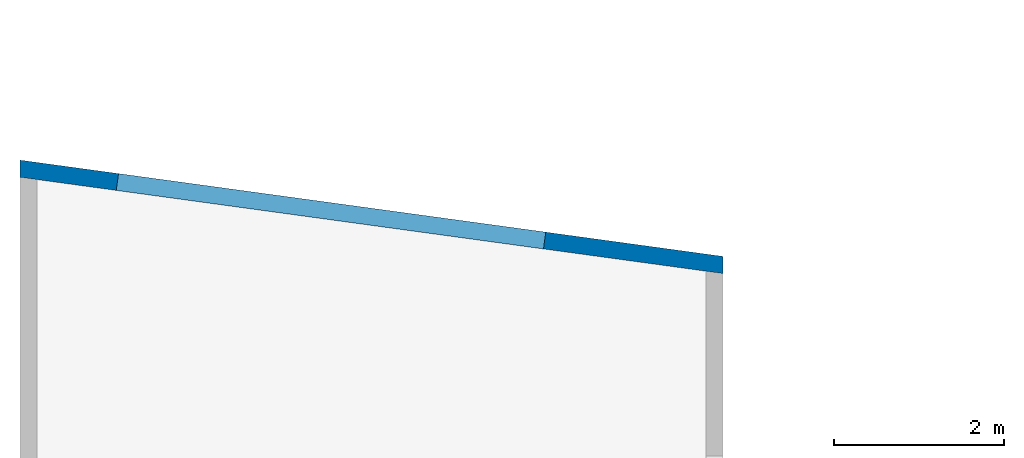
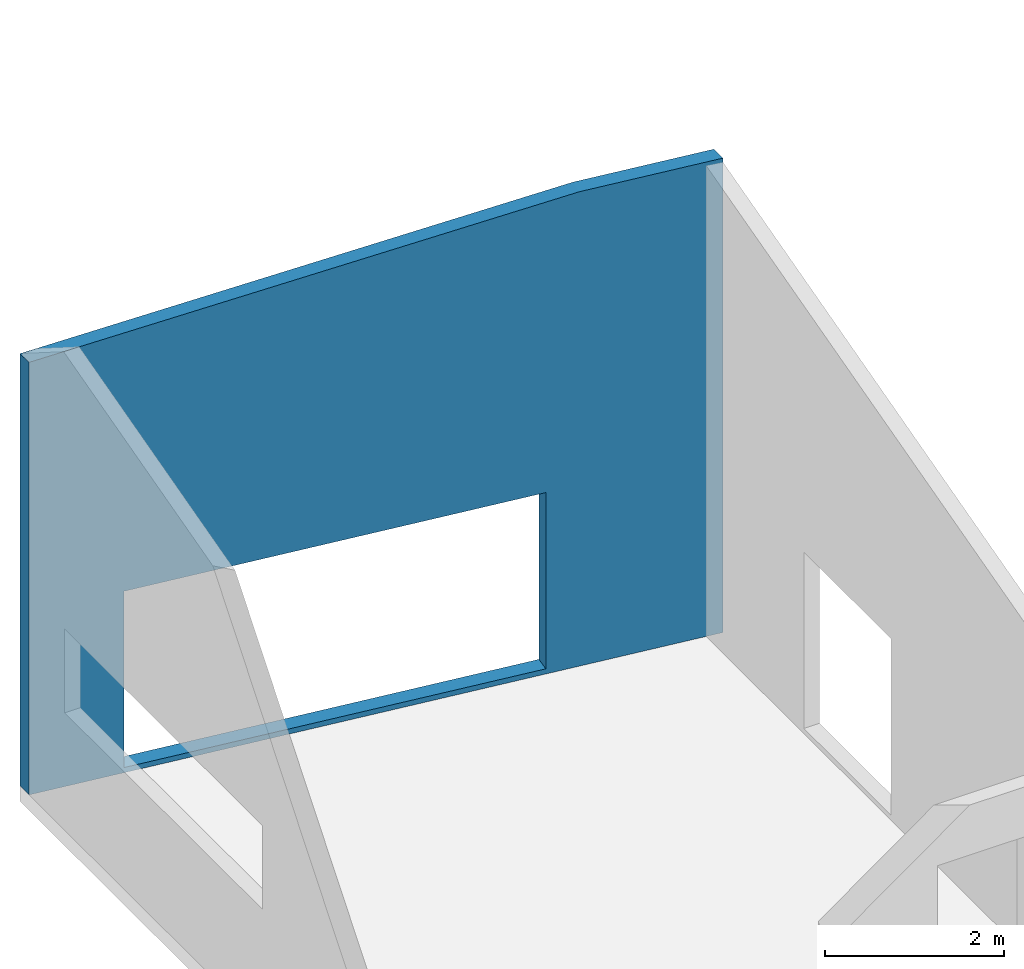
# One storey, part 2 of 2: 1 wall.
"""IFC2X3 building model written with IfcOpenShell, lengths in metres."""

from ifc_helpers import new_model, entity, si_unit, converted_unit, derived_unit, direction, frame, origin, place, context, subcontext, project, spatial, faceted_brep, material, type_object, element, save


model = new_model("IFC2X3")

# Units and contexts
model_context = context("Model", 3, precision=1e-05, world=origin(), true_north=direction((6.12303176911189e-17, 1.0)))
body_context = subcontext(model_context, "Body", "Model", "MODEL_VIEW")
ifc_project = project(units=[si_unit("LENGTHUNIT", "METRE"), si_unit("AREAUNIT", "SQUARE_METRE"), si_unit("VOLUMEUNIT", "CUBIC_METRE"), converted_unit("PLANEANGLEUNIT", "DEGREE", entity("IfcRatioMeasure", 0.0174532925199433), si_unit("PLANEANGLEUNIT", "RADIAN"), dimensions=[0, 0, 0, 0, 0, 0, 0]), si_unit("MASSUNIT", "GRAM", prefix="KILO"), si_unit("TIMEUNIT", "SECOND"), si_unit("FREQUENCYUNIT", "HERTZ"), si_unit("THERMODYNAMICTEMPERATUREUNIT", "DEGREE_CELSIUS"), derived_unit("THERMALTRANSMITTANCEUNIT", [(si_unit("MASSUNIT", "GRAM", prefix="KILO"), 1), (si_unit("THERMODYNAMICTEMPERATUREUNIT", "KELVIN"), -1), (si_unit("TIMEUNIT", "SECOND"), -3)]), derived_unit("VOLUMETRICFLOWRATEUNIT", [(si_unit("LENGTHUNIT", "METRE"), 3), (si_unit("TIMEUNIT", "SECOND"), -1)]), si_unit("ELECTRICCURRENTUNIT", "AMPERE"), si_unit("ELECTRICVOLTAGEUNIT", "VOLT"), si_unit("POWERUNIT", "WATT"), si_unit("FORCEUNIT", "NEWTON", prefix="KILO"), si_unit("ILLUMINANCEUNIT", "LUX"), si_unit("LUMINOUSFLUXUNIT", "LUMEN"), si_unit("LUMINOUSINTENSITYUNIT", "CANDELA"), derived_unit("USERDEFINED", [(si_unit("MASSUNIT", "GRAM", prefix="KILO"), -1), (si_unit("LENGTHUNIT", "METRE"), -2), (si_unit("TIMEUNIT", "SECOND"), 3), (si_unit("LUMINOUSFLUXUNIT", "LUMEN"), 1)]), derived_unit("LINEARVELOCITYUNIT", [(si_unit("LENGTHUNIT", "METRE"), 1), (si_unit("TIMEUNIT", "SECOND"), -1)]), si_unit("PRESSUREUNIT", "PASCAL"), derived_unit("USERDEFINED", [(si_unit("LENGTHUNIT", "METRE"), -2), (si_unit("MASSUNIT", "GRAM", prefix="KILO"), 1), (si_unit("TIMEUNIT", "SECOND"), -2)])], contexts=[model_context])

# Site, building, storey
site_placement = place(None, origin())
site = spatial("IfcSite", under=ifc_project, at=site_placement, Name="Default", CompositionType="ELEMENT")
building_placement = place(site_placement, origin())
building = spatial("IfcBuilding", under=site, at=building_placement, CompositionType="ELEMENT")
storey_placement = place(building_placement, origin())
storey = spatial("IfcBuildingStorey", under=building, at=storey_placement, Name="Niveau 0", CompositionType="ELEMENT", Elevation=-1.94916083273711e-14)

# Wall
ifc_material = material(Name="Mur par défaut")
wall_type = type_object("IfcWallType", Name="Mur de base:Générique - Ext. 200 mm", PredefinedType="NOTDEFINED")
wall_placement = place(storey_placement, frame((-22.2990873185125, 6.89357811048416, -0.0700000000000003), z_axis=(0.0, 0.0, 1.0), x_axis=(0.990747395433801, -0.13571882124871, 0.0)))
element("IfcWall", 1, at=wall_placement, inside=storey, type_object=wall_type, material=ifc_material, Name="Mur de base:Générique - Ext. 200 mm", ObjectType="Mur de base:Générique - Ext. 200 mm", context=body_context, shape_type="Brep", body=[
    faceted_brep([(0.0273972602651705, -0.100000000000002, 0.0), (8.18285649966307, -0.100000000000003, 0.0), (8.38472430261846, -0.100000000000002, 0.0), (8.38472430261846, -0.100000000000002, 6.40466208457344), (8.38472430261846, -0.100000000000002, 6.4589435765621), (6.65732704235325, -0.100000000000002, 6.4589435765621), (0.0273972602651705, -0.100000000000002, 5.8887847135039), (1.17158412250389, -0.100000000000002, 2.47), (6.2515841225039, -0.100000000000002, 2.47), (6.2515841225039, -0.100000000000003, 0.0700000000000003), (1.17158412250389, -0.100000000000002, 0.0700000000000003), (8.35732704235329, 0.0999999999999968, 0.0), (0.0, 0.0999999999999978, 0.0), (0.0, 0.0999999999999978, 5.88642861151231), (6.65732704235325, 0.0999999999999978, 6.4589435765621), (8.35732704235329, 0.0999999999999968, 6.4589435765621), (6.2515841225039, 0.0999999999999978, 2.47), (1.17158412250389, 0.0999999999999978, 2.47), (1.17158412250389, 0.0999999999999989, 0.0700000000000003), (6.2515841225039, 0.0999999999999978, 0.0700000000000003)], [[[0, 1, 2, 3, 4, 5, 6], [7, 8, 9, 10]], [[11, 12, 13, 14, 15], [16, 17, 18, 19]], [[4, 3, 2, 11, 15]], [[7, 17, 16, 8]], [[9, 19, 18, 10]], [[17, 7, 10, 18]], [[8, 16, 19, 9]], [[2, 1, 0, 12, 11]], [[5, 4, 15, 14]], [[6, 5, 14, 13]], [[0, 6, 13, 12]]]),
])

save(model, "model.ifc")
